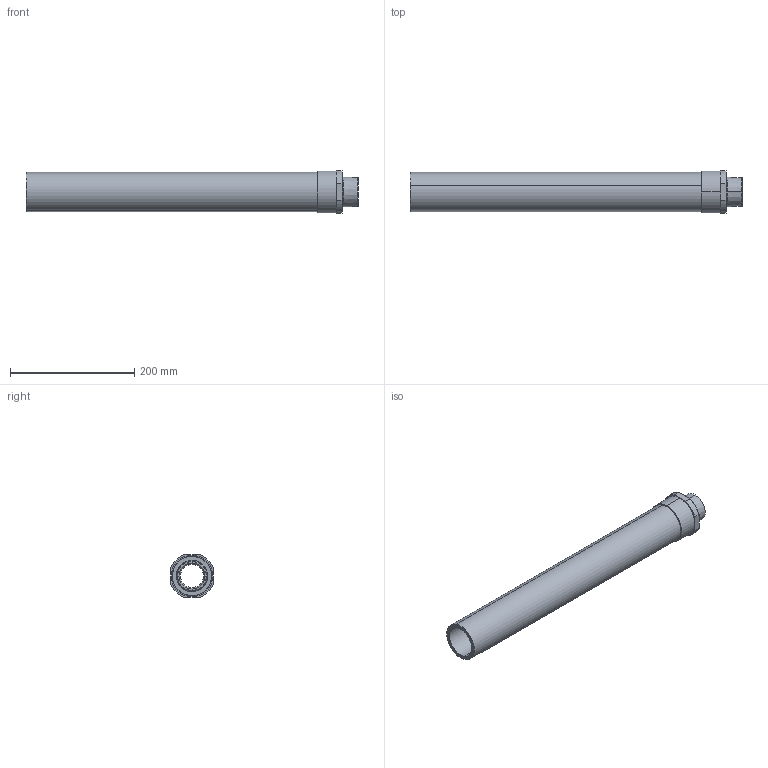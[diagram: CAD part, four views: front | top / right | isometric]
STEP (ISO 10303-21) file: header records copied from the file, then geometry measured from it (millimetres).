
FILE_DESCRIPTION (( 'STEP AP214' ), '1' );
FILE_NAME ('KP_C17-63_54ML.STEP', '2012-12-20T13:24:24', ( '' ), ( '' ), 'SwSTEP 2.0', 'SolidWorks 2012', '' );
FILE_SCHEMA (( 'AUTOMOTIVE_DESIGN' ));
Length unit declared in the file: millimetre
Products named in the file (1): KP_C17-63_54ML
Bounding box: 535 x 68 x 68 mm (x, y, z)
Volume: 615343 mm3; surface area: 215343.5 mm2
Topology: 1 solids, 1 shells, 64 faces, 138 edges, 84 vertices
Faces by surface type: cylinder 24, cone 14, plane 14, torus 12
Entity records: 1915 total; most frequent: CARTESIAN_POINT 375, DIRECTION 340, ORIENTED_EDGE 276, AXIS2_PLACEMENT_3D 145, EDGE_CURVE 138, VERTEX_POINT 84, CIRCLE 80, EDGE_LOOP 74
